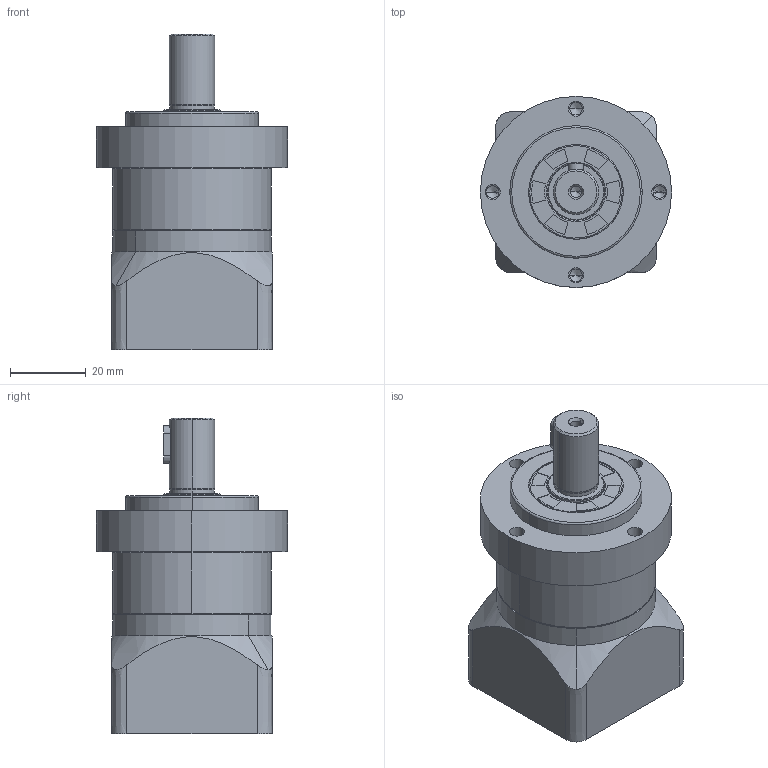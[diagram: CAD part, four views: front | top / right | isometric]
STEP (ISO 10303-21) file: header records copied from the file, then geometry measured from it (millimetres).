
FILE_DESCRIPTION (( 'STEP AP203' ), '1' );
FILE_NAME ('NA42-L1(8-30-45-M3).STEP', '2022-02-25T07:17:18', ( '' ), ( '' ), 'SwSTEP 2.0', 'SolidWorks 2016', '' );
FILE_SCHEMA (( 'CONFIG_CONTROL_DESIGN' ));
Length unit declared in the file: millimetre
Products named in the file (8): SN42-(30-45-M3); NA42-L1(8-30-45-M3); SN42-(12x20-4x10); SN42-15x25x4; SN42-26x14x11-M4; SN42-(8); SN42; NA42-(35x4-44-M4)
Assembly tree (7 placements, depth 2):
  NA42-L1(8-30-45-M3)
    NA42-(35x4-44-M4)
    SN42-15x25x4
    SN42-(12x20-4x10)
    SN42
    SN42-(30-45-M3)
    SN42-(8)
    SN42-26x14x11-M4
Bounding box: 50.5 x 50.5 x 83.5 mm (x, y, z)
Volume: 82511.4 mm3; surface area: 33970.5 mm2
Topology: 7 solids, 10 shells, 398 faces, 960 edges, 587 vertices
Faces by surface type: cylinder 192, plane 89, cone 78, bspline 37, torus 2
Entity records: 24041 total; most frequent: CARTESIAN_POINT 14424, ORIENTED_EDGE 1864, DIRECTION 1777, EDGE_CURVE 934, AXIS2_PLACEMENT_3D 702, VERTEX_POINT 587, EDGE_LOOP 456, ADVANCED_FACE 398
